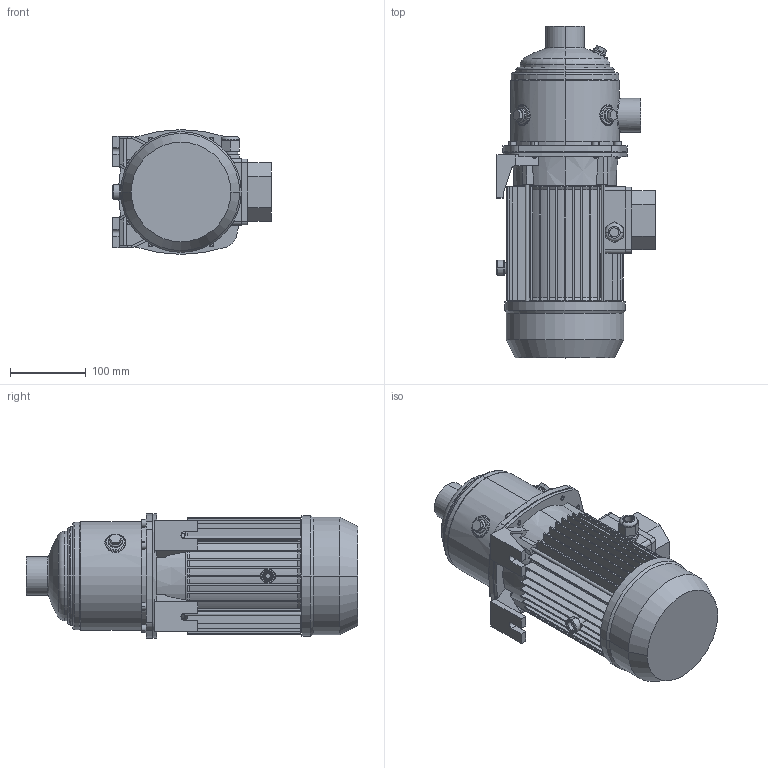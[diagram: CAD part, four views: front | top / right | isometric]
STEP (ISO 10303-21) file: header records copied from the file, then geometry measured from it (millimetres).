
FILE_DESCRIPTION((''),'2;1');
FILE_NAME('MATRIX_10-3T_1_3_IE3_ASM','2018-06-01T',('rosa'),('"Ebara Pumps Europe +39.444.706811"'),'PRO/ENGINEER BY PARAMETRIC TECHNOLOGY CORPORATION, 2012130','PRO/ENGINEER BY PARAMETRIC TECHNOLOGY CORPORATION, 2012130','');
FILE_SCHEMA(('AUTOMOTIVE_DESIGN { 1 0 10303 214 1 1 1 1 }'));
Length unit declared in the file: millimetre
Products named in the file (5): CORPO_POMPA_MATRIX_10-2_3; SUPPORTO_MATRIX_MEC_80; MEC_80X130_IE3; 72229; MATRIX_10-3T_1_3_IE3_ASM
Assembly tree (4 placements, depth 2):
  MATRIX_10-3T_1_3_IE3_ASM
    CORPO_POMPA_MATRIX_10-2_3
    SUPPORTO_MATRIX_MEC_80
    MEC_80X130_IE3
    72229
Bounding box: 209 x 438.8 x 165 mm (x, y, z)
Volume: 4887868.1 mm3; surface area: 567299.2 mm2
Topology: 4 solids, 4 shells, 718 faces, 1729 edges, 1067 vertices
Faces by surface type: plane 377, cylinder 186, cone 102, torus 37, bspline 14, sphere 2
Entity records: 28097 total; most frequent: CARTESIAN_POINT 5380, DIRECTION 3658, ORIENTED_EDGE 3458, EDGE_CURVE 1729, PRESENTATION_STYLE_ASSIGNMENT 1682, STYLED_ITEM 1682, CURVE_STYLE 1679, AXIS2_PLACEMENT_3D 1400
